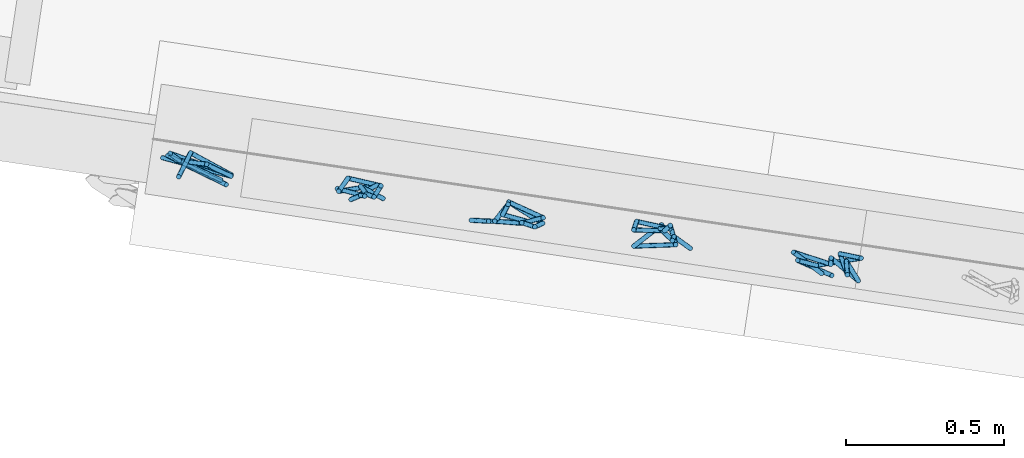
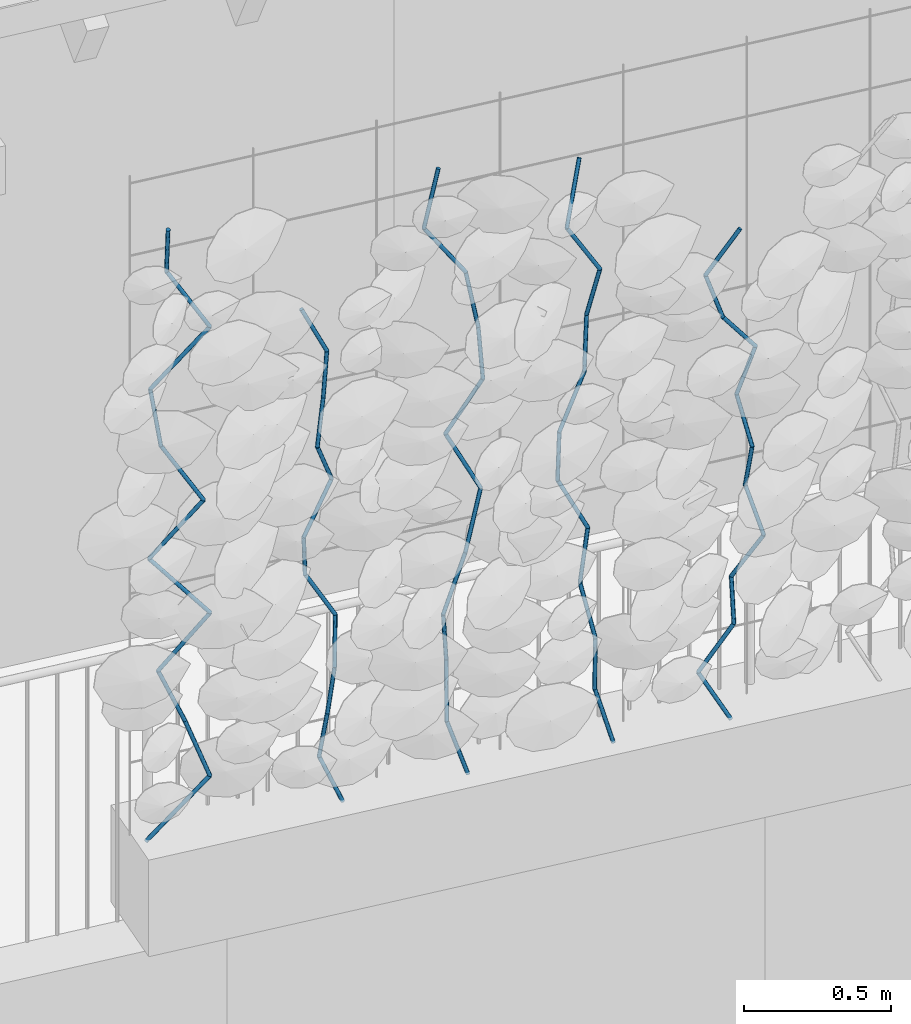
# One storey, part 103 of 128: 55 members, 1 element without a shape of its own.
"""IFC4 building model written with IfcOpenShell, lengths in metres."""

import ifcopenshell
import ifcopenshell.guid

model = None  # the IFC model being written
_history = None  # IfcOwnerHistory: only IFC2X3 demands one
_inside = {}  # id of a spatial element -> (the spatial element, [elements in it])
_under = {}  # id of a project, library or spatial element -> (it, [spatial elements below it])
_declared = {}  # id of a project -> (the project, [libraries it declares])
_typed = {}  # id of a type object -> (the type object, [elements of that type])
_made_of = {}  # id of a material, layer set ... -> (it, [elements and type objects made of it])


def new_model(schema):
    """Start an empty IFC model of exactly this schema.

    Asked for "IFC4X3", IfcOpenShell would pick the latest addendum, in which some entities
    have other attributes; the version numbers below select the first issue.
    IFC2X3 requires an IfcOwnerHistory on every rooted entity: one is made here for all.
    """
    global model, _history
    if schema == "IFC4X3":
        model = ifcopenshell.file(schema_version=(4, 3, 0, 0))
    else:
        model = ifcopenshell.file(schema=schema)
    _inside.clear()
    _under.clear()
    _declared.clear()
    _typed.clear()
    _made_of.clear()
    _history = None
    if model.schema == "IFC2X3":
        org = make("IfcOrganization", Name="unknown")
        user = make(
            "IfcPersonAndOrganization",
            ThePerson=make("IfcPerson", FamilyName="unknown"),
            TheOrganization=org,
        )
        app = make(
            "IfcApplication",
            ApplicationDeveloper=org,
            Version="unknown",
            ApplicationFullName="unknown",
            ApplicationIdentifier="unknown",
        )
        _history = make(
            "IfcOwnerHistory",
            OwningUser=user,
            OwningApplication=app,
            ChangeAction="ADDED",
            CreationDate=0,
        )
    return model


def make(cls, **values):
    """One entity of the class cls with the attributes given. An attribute that is None is left unset."""
    return model.create_entity(
        cls, **{name: value for name, value in values.items() if value is not None}
    )


def rooted(cls, **values):
    """An entity with a GlobalId (a new one), such as an element, a storey or a relation."""
    return make(cls, GlobalId=ifcopenshell.guid.new(), OwnerHistory=_history, **values)


def si_unit(unit_type, name, prefix=None):
    """IfcSIUnit, for example si_unit("LENGTHUNIT", "METRE", prefix="MILLI")."""
    return make("IfcSIUnit", UnitType=unit_type, Prefix=prefix, Name=name)


def assignment(units):
    """IfcUnitAssignment: the units of a project."""
    return None if units is None else make("IfcUnitAssignment", Units=units)


def point(xyz):
    """IfcCartesianPoint."""
    return None if xyz is None else make("IfcCartesianPoint", Coordinates=xyz)


def direction(xyz):
    """IfcDirection."""
    return None if xyz is None else make("IfcDirection", DirectionRatios=xyz)


def frame(location, z_axis=None, x_axis=None):
    """IfcAxis2Placement3D, a coordinate frame: its origin and axes. An axis left out is left unset."""
    return make(
        "IfcAxis2Placement3D",
        Location=point(location),
        Axis=direction(z_axis),
        RefDirection=direction(x_axis),
    )


def origin_with_axes():
    """The frame at (0, 0, 0) with the z axis (0, 0, 1) and the x axis (1, 0, 0) written out."""
    return frame((0.0, 0.0, 0.0), z_axis=(0.0, 0.0, 1.0), x_axis=(1.0, 0.0, 0.0))


def place(relative_to, where):
    """IfcLocalPlacement: puts the frame where relative to a parent placement (None: the world)."""
    return make(
        "IfcLocalPlacement", PlacementRelTo=relative_to, RelativePlacement=where
    )


def context(
    kind, dimensions, precision=None, world=None, true_north=None, identifier=None
):
    """IfcGeometricRepresentationContext, for example the 3D "Model" context."""
    return make(
        "IfcGeometricRepresentationContext",
        ContextIdentifier=identifier,
        ContextType=kind,
        CoordinateSpaceDimension=dimensions,
        Precision=precision,
        WorldCoordinateSystem=world,
        TrueNorth=true_north,
    )


def subcontext(parent, identifier, kind, view, scale=None):
    """IfcGeometricRepresentationSubContext, for example "Body" below "Model"."""
    return make(
        "IfcGeometricRepresentationSubContext",
        ContextIdentifier=identifier,
        ContextType=kind,
        ParentContext=parent,
        TargetScale=scale,
        TargetView=view,
    )


def project(units=None, contexts=None):
    """IfcProject with its units and contexts."""
    return rooted(
        "IfcProject",
        Name="project",
        RepresentationContexts=contexts,
        UnitsInContext=assignment(units),
    )


def spatial(cls, under=None, at=None, **own):
    """A site, building, storey or space (cls), placed at a placement, below another one or the project."""
    s = rooted(cls, ObjectPlacement=at, **own)
    if under is not None:
        _under.setdefault(under.id(), (under, []))[1].append(s)
    return s


def profile(cls, at=None, kind="AREA", **sizes):
    """A parametric profile (cls). Its sizes go by their IFC names, for example OverallWidth=200.0."""
    return make(cls, ProfileType=kind, Position=at, **sizes)


def circle(**sizes):
    """IfcCircleProfileDef."""
    return profile("IfcCircleProfileDef", **sizes)


def extrude(swept, where, along, depth):
    """IfcExtrudedAreaSolid: the profile swept, set in the frame where, extruded along a direction by depth."""
    return make(
        "IfcExtrudedAreaSolid",
        SweptArea=swept,
        Position=where,
        ExtrudedDirection=direction(along),
        Depth=depth,
    )


def shape(context_of_items, identifier, shape_type, items):
    """IfcShapeRepresentation: the items that make up one representation, for example the "Body"."""
    return make(
        "IfcShapeRepresentation",
        ContextOfItems=context_of_items,
        RepresentationIdentifier=identifier,
        RepresentationType=shape_type,
        Items=items,
    )


def material(Name=None, Category=None):
    """IfcMaterial."""
    return make("IfcMaterial", Name=Name, Category=Category)


def material_profile(
    of_material, cross_section, Name=None, Category=None, Priority=None
):
    """IfcMaterialProfile: a cross section and its material."""
    return make(
        "IfcMaterialProfile",
        Name=Name,
        Material=of_material,
        Profile=cross_section,
        Priority=Priority,
        Category=Category,
    )


def profile_set(profiles, Name=None, composite=None):
    """IfcMaterialProfileSet."""
    return make(
        "IfcMaterialProfileSet",
        Name=Name,
        MaterialProfiles=profiles,
        CompositeProfile=composite,
    )


def profile_usage(for_profile_set, cardinal=None, extent=None):
    """IfcMaterialProfileSetUsage: how a profile set lies along its element."""
    return make(
        "IfcMaterialProfileSetUsage",
        ForProfileSet=for_profile_set,
        CardinalPoint=cardinal,
        ReferenceExtent=extent,
    )


def made_of(thing, what):
    """Note that an element or type object is made of a material, layer set ...; save() writes the relation."""
    if what is not None:
        _made_of.setdefault(what.id(), (what, []))[1].append(thing)
    return thing


def type_object(cls, material=None, **own):
    """A type object (cls), such as IfcWallType, which elements share."""
    return made_of(rooted(cls, **own), material)


def element(
    cls,
    number,
    at=None,
    inside=None,
    cuts=None,
    type_object=None,
    material=None,
    context=None,
    identifier="Body",
    shape_type=None,
    held_by="IfcProductDefinitionShape",
    body=None,
    shapes=None,
    **own,
):
    """One element of the class cls, such as IfcWall. Its Tag is "e" and its number.

    at: its placement. inside: the storey or other place that contains it. cuts: it is an
    opening in that element (IfcRelVoidsElement). A single representation is given by context,
    identifier, shape_type and body (its items); several are given by shapes. held_by: the class
    of the entity that holds the representations. save() writes the other relations.
    """
    e = rooted(cls, Tag="e%d" % number, ObjectPlacement=at, **own)
    if body is not None:
        shapes = [shape(context, identifier, shape_type, body)]
    if shapes is not None:
        e.Representation = make(held_by, Representations=shapes)
    if inside is not None:
        _inside.setdefault(inside.id(), (inside, []))[1].append(e)
    if cuts is not None:
        rooted(
            "IfcRelVoidsElement", RelatingBuildingElement=cuts, RelatedOpeningElement=e
        )
    if type_object is not None:
        _typed.setdefault(type_object.id(), (type_object, []))[1].append(e)
    return made_of(e, material)


def aggregate(whole, parts):
    """IfcRelAggregates: a whole, such as a stair, and the parts it consists of."""
    return rooted("IfcRelAggregates", RelatingObject=whole, RelatedObjects=parts)


def save(model, path):
    """Write the relations noted so far, then the file.

    IfcRelAggregates (storeys below a building ...), IfcRelContainedInSpatialStructure (elements
    in a storey), IfcRelDefinesByType, IfcRelAssociatesMaterial and IfcRelDeclares: one each for
    every whole, place, type object, material and project.
    """
    for whole, parts in _under.values():
        aggregate(whole, parts)
    for where, things in _inside.values():
        rooted(
            "IfcRelContainedInSpatialStructure",
            RelatedElements=things,
            RelatingStructure=where,
        )
    for kind, things in _typed.values():
        rooted("IfcRelDefinesByType", RelatedObjects=things, RelatingType=kind)
    for what, things in _made_of.values():
        rooted("IfcRelAssociatesMaterial", RelatedObjects=things, RelatingMaterial=what)
    for by, libraries in _declared.values():
        rooted("IfcRelDeclares", RelatingContext=by, RelatedDefinitions=libraries)
    model.write(path)


model = new_model("IFC4")

# Units and contexts
model_context = context("Model", 3, precision=1e-05, world=origin_with_axes(), true_north=direction((0.0, 1.0)))
body_context = subcontext(model_context, "Body", "Model", "MODEL_VIEW")
ifc_project = project(units=[si_unit("VOLUMEUNIT", "CUBIC_METRE"), si_unit("LENGTHUNIT", "METRE"), si_unit("AREAUNIT", "SQUARE_METRE")], contexts=[model_context])

# Site, building, storey
site_placement = place(None, origin_with_axes())
site = spatial("IfcSite", under=ifc_project, at=site_placement, Name="Lares · Rua das Mercês · artigo 4771")
building_placement = place(site_placement, frame((15.0, 9.7, 13.9), z_axis=(0.0, 0.0, 1.0), x_axis=(0.989015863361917, -0.147809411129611, 0.0)))
building = spatial("IfcBuilding", under=site, at=building_placement, Name="Casa Sobreposta")
storey_placement = place(building_placement, origin_with_axes())
storey = spatial("IfcBuildingStorey", under=building, at=storey_placement, Name="00 · Habitação e estacionamento", Elevation=13.9)

# Assembly, members
assembly_placement = place(storey_placement, origin_with_axes())
assembly = element("IfcElementAssembly", 1, at=assembly_placement, inside=storey, Name="Fachada sul e pátio · estrutura e trepadeiras", ObjectType="LIVING_SHADE_TRELLIS", PredefinedType="USERDEFINED")
ifc_material = material(Name="Ramos de trepadeiras", Category="wood")
ifc_material_profile = material_profile(ifc_material, circle(Radius=0.0075))
ifc_profile_set = profile_set([ifc_material_profile], Name="D0.015")
ifc_profile_usage_1 = profile_usage(ifc_profile_set)
member_type = type_object("IfcMemberType", Name="D0.015 / vine_wood", PredefinedType="NOTDEFINED", material=ifc_profile_set)
member_1_placement = place(assembly_placement, frame((0.487502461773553, -1.66396382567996, 0.35), z_axis=(0.69058492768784, -0.0801863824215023, 0.718792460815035), x_axis=(-0.115338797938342, -0.993326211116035, 0.0)))
member_1 = element("IfcMember", 2, at=member_1_placement, type_object=member_type, material=ifc_profile_usage_1, Name="Trepadeiras · ramo", context=body_context, shape_type="SweptSolid", body=[
    extrude(circle(Radius=0.0075), origin_with_axes(), (0.0, 0.0, 1.0), 0.32293185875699),
])
ifc_profile_usage_2 = profile_usage(ifc_profile_set)
member_2_placement = place(assembly_placement, frame((0.710514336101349, -1.68985856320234, 0.582120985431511), z_axis=(-0.328747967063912, 0.104310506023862, 0.938639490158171), x_axis=(0.30243708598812, 0.953169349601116, 0.0)))
member_2 = element("IfcMember", 3, at=member_2_placement, type_object=member_type, material=ifc_profile_usage_2, Name="Trepadeiras · ramo", context=body_context, shape_type="SweptSolid", body=[
    extrude(circle(Radius=0.0075), origin_with_axes(), (0.0, 0.0, 1.0), 0.247295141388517),
])
ifc_profile_usage_3 = profile_usage(ifc_profile_set)
member_3_placement = place(assembly_placement, frame((0.629216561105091, -1.66406308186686, 0.814241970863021), z_axis=(-0.389191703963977, -0.00603293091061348, 0.921137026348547), x_axis=(-0.0154993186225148, 0.999879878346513, 0.0)))
member_3 = element("IfcMember", 4, at=member_3_placement, type_object=member_type, material=ifc_profile_usage_3, Name="Trepadeiras · ramo", context=body_context, shape_type="SweptSolid", body=[
    extrude(circle(Radius=0.0075), origin_with_axes(), (0.0, 0.0, 1.0), 0.251993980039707),
])
ifc_profile_usage_4 = profile_usage(ifc_profile_set)
member_4_placement = place(assembly_placement, frame((0.531142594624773, -1.66558334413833, 1.04636295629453), z_axis=(0.579293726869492, -0.182032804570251, 0.794533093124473), x_axis=(-0.299780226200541, -0.954008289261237, 0.0)))
member_4 = element("IfcMember", 5, at=member_4_placement, type_object=member_type, material=ifc_profile_usage_4, Name="Trepadeiras · ramo", context=body_context, shape_type="SweptSolid", body=[
    extrude(circle(Radius=0.0075), origin_with_axes(), (0.0, 0.0, 1.0), 0.292147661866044),
])
ifc_profile_usage_5 = profile_usage(ifc_profile_set)
member_5_placement = place(assembly_placement, frame((0.700381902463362, -1.71876380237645, 1.27848394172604), z_axis=(-0.634729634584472, 0.207136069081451, 0.744454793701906), x_axis=(0.310235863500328, 0.950659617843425, 3.09474478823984e-17)))
member_5 = element("IfcMember", 6, at=member_5_placement, type_object=member_type, material=ifc_profile_usage_5, Name="Trepadeiras · ramo", context=body_context, shape_type="SweptSolid", body=[
    extrude(circle(Radius=0.0075), origin_with_axes(), (0.0, 0.0, 1.0), 0.311799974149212),
])
ifc_profile_usage_6 = profile_usage(ifc_profile_set)
member_6_placement = place(assembly_placement, frame((0.502473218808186, -1.65417878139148, 1.51060492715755), z_axis=(0.599844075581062, -0.17685079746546, 0.78032741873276), x_axis=(-0.28279332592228, -0.959180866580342, 0.0)))
member_6 = element("IfcMember", 7, at=member_6_placement, type_object=member_type, material=ifc_profile_usage_6, Name="Trepadeiras · ramo", context=body_context, shape_type="SweptSolid", body=[
    extrude(circle(Radius=0.0075), origin_with_axes(), (0.0, 0.0, 1.0), 0.297466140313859),
])
ifc_profile_usage_7 = profile_usage(ifc_profile_set)
member_7_placement = place(assembly_placement, frame((0.680906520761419, -1.70678590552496, 1.74272591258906), z_axis=(-0.507589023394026, 0.156348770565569, 0.847294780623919), x_axis=(0.294373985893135, 0.95569030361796, 0.0)))
member_7 = element("IfcMember", 8, at=member_7_placement, type_object=member_type, material=ifc_profile_usage_7, Name="Trepadeiras · ramo", context=body_context, shape_type="SweptSolid", body=[
    extrude(circle(Radius=0.0075), origin_with_axes(), (0.0, 0.0, 1.0), 0.27395540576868),
])
ifc_profile_usage_8 = profile_usage(ifc_profile_set)
member_8_placement = place(assembly_placement, frame((0.54184976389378, -1.66395331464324, 1.97484689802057), z_axis=(-0.136484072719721, 0.0718011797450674, 0.988036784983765), x_axis=(0.465581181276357, 0.885005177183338, 0.0)))
member_8 = element("IfcMember", 9, at=member_8_placement, type_object=member_type, material=ifc_profile_usage_8, Name="Trepadeiras · ramo", context=body_context, shape_type="SweptSolid", body=[
    extrude(circle(Radius=0.0075), origin_with_axes(), (0.0, 0.0, 1.0), 0.23493152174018),
])
ifc_profile_usage_9 = profile_usage(ifc_profile_set)
member_9_placement = place(assembly_placement, frame((0.509785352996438, -1.64708495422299, 2.20696788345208), z_axis=(0.65162920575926, -0.125884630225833, 0.74801900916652), x_axis=(-0.189677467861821, -0.981846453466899, 0.0)))
member_9 = element("IfcMember", 10, at=member_9_placement, type_object=member_type, material=ifc_profile_usage_9, Name="Trepadeiras · ramo", context=body_context, shape_type="SweptSolid", body=[
    extrude(circle(Radius=0.0075), origin_with_axes(), (0.0, 0.0, 1.0), 0.310314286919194),
])
ifc_profile_usage_10 = profile_usage(ifc_profile_set)
member_10_placement = place(assembly_placement, frame((0.711995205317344, -1.6861487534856, 2.4390888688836), z_axis=(-0.503862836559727, 0.183056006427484, 0.844163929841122), x_axis=(0.341468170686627, 0.93989333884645, 0.0)))
member_10 = element("IfcMember", 11, at=member_10_placement, type_object=member_type, material=ifc_profile_usage_10, Name="Trepadeiras · ramo", context=body_context, shape_type="SweptSolid", body=[
    extrude(circle(Radius=0.0075), origin_with_axes(), (0.0, 0.0, 1.0), 0.274971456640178),
])
ifc_profile_usage_11 = profile_usage(ifc_profile_set)
member_11_placement = place(assembly_placement, frame((0.573447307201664, -1.6358135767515, 2.67120985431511), z_axis=(-0.104470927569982, -0.32645838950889, 0.939420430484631), x_axis=(-0.952420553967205, 0.304786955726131, 0.0)))
member_11 = element("IfcMember", 12, at=member_11_placement, type_object=member_type, material=ifc_profile_usage_11, Name="Trepadeiras · ramo", context=body_context, shape_type="SweptSolid", body=[
    extrude(circle(Radius=0.0075), origin_with_axes(), (0.0, 0.0, 1.0), 0.247089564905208),
])
ifc_profile_usage_12 = profile_usage(ifc_profile_set)
member_12_placement = place(assembly_placement, frame((1.19577776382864, -1.68878370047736, 0.35), z_axis=(-0.370010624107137, 0.134204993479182, 0.919282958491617), x_axis=(0.340970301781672, 0.940074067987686, 0.0)))
member_12 = element("IfcMember", 13, at=member_12_placement, type_object=member_type, material=ifc_profile_usage_12, Name="Trepadeiras · ramo", context=body_context, shape_type="SweptSolid", body=[
    extrude(circle(Radius=0.0075), origin_with_axes(), (0.0, 0.0, 1.0), 0.204791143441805),
])
ifc_profile_usage_13 = profile_usage(ifc_profile_set)
member_13_placement = place(assembly_placement, frame((1.12000286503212, -1.66129970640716, 0.538261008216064), z_axis=(0.114974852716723, -0.113400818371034, 0.98687437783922), x_axis=(-0.702216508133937, -0.71196346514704, 0.0)))
member_13 = element("IfcMember", 14, at=member_13_placement, type_object=member_type, material=ifc_profile_usage_13, Name="Trepadeiras · ramo", context=body_context, shape_type="SweptSolid", body=[
    extrude(circle(Radius=0.0075), origin_with_axes(), (0.0, 0.0, 1.0), 0.190764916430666),
])
ifc_profile_usage_14 = profile_usage(ifc_profile_set)
member_14_placement = place(assembly_placement, frame((1.14193603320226, -1.68293260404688, 0.726522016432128), z_axis=(0.129485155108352, -0.0261637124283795, 0.991236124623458), x_axis=(-0.198056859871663, -0.98019053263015, 0.0)))
member_14 = element("IfcMember", 15, at=member_14_placement, type_object=member_type, material=ifc_profile_usage_14, Name="Trepadeiras · ramo", context=body_context, shape_type="SweptSolid", body=[
    extrude(circle(Radius=0.0075), origin_with_axes(), (0.0, 0.0, 1.0), 0.189925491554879),
])
ifc_profile_usage_15 = profile_usage(ifc_profile_set)
member_15_placement = place(assembly_placement, frame((1.16652856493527, -1.68790175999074, 0.914783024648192), z_axis=(0.0860637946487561, 0.196311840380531, 0.976757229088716), x_axis=(0.915853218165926, -0.401513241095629, 0.0)))
member_15 = element("IfcMember", 16, at=member_15_placement, type_object=member_type, material=ifc_profile_usage_15, Name="Trepadeiras · ramo", context=body_context, shape_type="SweptSolid", body=[
    extrude(circle(Radius=0.0075), origin_with_axes(), (0.0, 0.0, 1.0), 0.192740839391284),
])
ifc_profile_usage_16 = profile_usage(ifc_profile_set)
member_16_placement = place(assembly_placement, frame((1.18311657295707, -1.65006445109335, 1.10304403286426), z_axis=(-0.492196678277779, 0.0389354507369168, 0.86961282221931), x_axis=(0.07885911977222, 0.996885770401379, 0.0)))
member_16 = element("IfcMember", 17, at=member_16_placement, type_object=member_type, material=ifc_profile_usage_16, Name="Trepadeiras · ramo", context=body_context, shape_type="SweptSolid", body=[
    extrude(circle(Radius=0.0075), origin_with_axes(), (0.0, 0.0, 1.0), 0.216488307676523),
])
ifc_profile_usage_17 = profile_usage(ifc_profile_set)
member_17_placement = place(assembly_placement, frame((1.07656174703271, -1.64163538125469, 1.29130504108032), z_axis=(-0.115924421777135, -0.23083538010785, 0.966062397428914), x_axis=(-0.893641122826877, 0.448782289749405, 0.0)))
member_17 = element("IfcMember", 18, at=member_17_placement, type_object=member_type, material=ifc_profile_usage_17, Name="Trepadeiras · ramo", context=body_context, shape_type="SweptSolid", body=[
    extrude(circle(Radius=0.0075), origin_with_axes(), (0.0, 0.0, 1.0), 0.194874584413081),
])
ifc_profile_usage_18 = profile_usage(ifc_profile_set)
member_18_placement = place(assembly_placement, frame((1.05397102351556, -1.68661933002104, 1.47956604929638), z_axis=(0.518346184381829, 0.165755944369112, 0.838953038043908), x_axis=(0.304584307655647, -0.952485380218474, 0.0)))
member_18 = element("IfcMember", 19, at=member_18_placement, type_object=member_type, material=ifc_profile_usage_18, Name="Trepadeiras · ramo", context=body_context, shape_type="SweptSolid", body=[
    extrude(circle(Radius=0.0075), origin_with_axes(), (0.0, 0.0, 1.0), 0.224399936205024),
])
ifc_profile_usage_19 = profile_usage(ifc_profile_set)
member_19_placement = place(assembly_placement, frame((1.17028787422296, -1.64942370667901, 1.66782705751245), z_axis=(-0.353351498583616, -0.271395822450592, 0.895258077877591), x_axis=(-0.609128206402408, 0.793071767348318, 0.0)))
member_19 = element("IfcMember", 20, at=member_19_placement, type_object=member_type, material=ifc_profile_usage_19, Name="Trepadeiras · ramo", context=body_context, shape_type="SweptSolid", body=[
    extrude(circle(Radius=0.0075), origin_with_axes(), (0.0, 0.0, 1.0), 0.210286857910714),
])
ifc_profile_usage_20 = profile_usage(ifc_profile_set)
member_20_placement = place(assembly_placement, frame((1.09598269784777, -1.70649468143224, 1.85608806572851), z_axis=(0.148789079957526, 0.088983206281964, 0.984857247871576), x_axis=(0.513264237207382, -0.858230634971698, 0.0)))
member_20 = element("IfcMember", 21, at=member_20_placement, type_object=member_type, material=ifc_profile_usage_20, Name="Trepadeiras · ramo", context=body_context, shape_type="SweptSolid", body=[
    extrude(circle(Radius=0.0075), origin_with_axes(), (0.0, 0.0, 1.0), 0.191155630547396),
])
ifc_profile_usage_21 = profile_usage(ifc_profile_set)
member_21_placement = place(assembly_placement, frame((1.12442456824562, -1.68948504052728, 2.04434907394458), z_axis=(0.0685665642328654, -0.00028264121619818, 0.99764650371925), x_axis=(-0.00412210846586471, -0.999991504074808, 0.0)))
member_21 = element("IfcMember", 22, at=member_21_placement, type_object=member_type, material=ifc_profile_usage_21, Name="Trepadeiras · ramo", context=body_context, shape_type="SweptSolid", body=[
    extrude(circle(Radius=0.0075), origin_with_axes(), (0.0, 0.0, 1.0), 0.188705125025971),
])
ifc_profile_usage_22 = profile_usage(ifc_profile_set)
member_22_placement = place(assembly_placement, frame((1.13736343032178, -1.68953837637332, 2.23261008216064), z_axis=(-0.427784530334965, 0.0507941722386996, 0.902452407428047), x_axis=(0.117909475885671, 0.993024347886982, 0.0)))
member_22 = element("IfcMember", 23, at=member_22_placement, type_object=member_type, material=ifc_profile_usage_22, Name="Trepadeiras · ramo", context=body_context, shape_type="SweptSolid", body=[
    extrude(circle(Radius=0.0075), origin_with_axes(), (0.0, 0.0, 1.0), 0.208610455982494),
])
ifc_profile_usage_23 = profile_usage(ifc_profile_set)
member_23_placement = place(assembly_placement, frame((1.65069620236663, -1.69213332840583, 0.35), z_axis=(-0.302355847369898, 0.0374710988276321, 0.952458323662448), x_axis=(0.122989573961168, 0.992407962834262, 0.0)))
member_23 = element("IfcMember", 24, at=member_23_placement, type_object=member_type, material=ifc_profile_usage_23, Name="Trepadeiras · ramo", context=body_context, shape_type="SweptSolid", body=[
    extrude(circle(Radius=0.0075), origin_with_axes(), (0.0, 0.0, 1.0), 0.243378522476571),
])
ifc_profile_usage_24 = profile_usage(ifc_profile_set)
member_24_placement = place(assembly_placement, frame((1.57710928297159, -1.68301366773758, 0.581807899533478), z_axis=(0.0489488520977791, 0.146411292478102, 0.988012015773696), x_axis=(0.948400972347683, -0.317073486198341, 0.0)))
member_24 = element("IfcMember", 25, at=member_24_placement, type_object=member_type, material=ifc_profile_usage_24, Name="Trepadeiras · ramo", context=body_context, shape_type="SweptSolid", body=[
    extrude(circle(Radius=0.0075), origin_with_axes(), (0.0, 0.0, 1.0), 0.234620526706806),
])
ifc_profile_usage_25 = profile_usage(ifc_profile_set)
member_25_placement = place(assembly_placement, frame((1.58859368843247, -1.64866257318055, 0.813615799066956), z_axis=(-0.139443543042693, -0.242815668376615, 0.959997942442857), x_axis=(-0.867176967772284, 0.498000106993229, 0.0)))
member_25 = element("IfcMember", 26, at=member_25_placement, type_object=member_type, material=ifc_profile_usage_25, Name="Trepadeiras · ramo", context=body_context, shape_type="SweptSolid", body=[
    extrude(circle(Radius=0.0075), origin_with_axes(), (0.0, 0.0, 1.0), 0.2414670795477),
])
ifc_profile_usage_26 = profile_usage(ifc_profile_set)
member_26_placement = place(assembly_placement, frame((1.55492266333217, -1.70729456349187, 1.04542369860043), z_axis=(0.336633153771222, 0.0229710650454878, 0.941355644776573), x_axis=(0.0680793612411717, -0.997679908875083, 0.0)))
member_26 = element("IfcMember", 27, at=member_26_placement, type_object=member_type, material=ifc_profile_usage_26, Name="Trepadeiras · ramo", context=body_context, shape_type="SweptSolid", body=[
    extrude(circle(Radius=0.0075), origin_with_axes(), (0.0, 0.0, 1.0), 0.24624901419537),
])
ifc_profile_usage_27 = profile_usage(ifc_profile_set)
member_27_placement = place(assembly_placement, frame((1.63781824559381, -1.7016379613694, 1.27723159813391), z_axis=(0.274649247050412, 0.113486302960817, 0.954823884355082), x_axis=(0.381887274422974, -0.924208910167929, -1.11474430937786e-17)))
member_27 = element("IfcMember", 28, at=member_27_placement, type_object=member_type, material=ifc_profile_usage_27, Name="Trepadeiras · ramo", context=body_context, shape_type="SweptSolid", body=[
    extrude(circle(Radius=0.0075), origin_with_axes(), (0.0, 0.0, 1.0), 0.242775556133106),
])
ifc_profile_usage_28 = profile_usage(ifc_profile_set)
member_28_placement = place(assembly_placement, frame((1.70449636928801, -1.6740862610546, 1.50903949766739), z_axis=(-0.442828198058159, 0.127544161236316, 0.887488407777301), x_axis=(0.27677050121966, 0.960936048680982, -1.33632518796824e-17)))
member_28 = element("IfcMember", 29, at=member_28_placement, type_object=member_type, material=ifc_profile_usage_28, Name="Trepadeiras · ramo", context=body_context, shape_type="SweptSolid", body=[
    extrude(circle(Radius=0.0075), origin_with_axes(), (0.0, 0.0, 1.0), 0.261195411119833),
])
ifc_profile_usage_29 = profile_usage(ifc_profile_set)
member_29_placement = place(assembly_placement, frame((1.58883167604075, -1.64077231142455, 1.74084739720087), z_axis=(0.441156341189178, -0.192631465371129, 0.876512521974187), x_axis=(-0.400165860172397, -0.916442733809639, 0.0)))
member_29 = element("IfcMember", 30, at=member_29_placement, type_object=member_type, material=ifc_profile_usage_29, Name="Trepadeiras · ramo", context=body_context, shape_type="SweptSolid", body=[
    extrude(circle(Radius=0.0075), origin_with_axes(), (0.0, 0.0, 1.0), 0.264466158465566),
])
ifc_profile_usage_30 = profile_usage(ifc_profile_set)
member_30_placement = place(assembly_placement, frame((1.70550259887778, -1.69171681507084, 1.97265529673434), z_axis=(-0.0976262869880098, -0.062175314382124, 0.993279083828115), x_axis=(-0.537179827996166, 0.843467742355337, 0.0)))
member_30 = element("IfcMember", 31, at=member_30_placement, type_object=member_type, material=ifc_profile_usage_30, Name="Trepadeiras · ramo", context=body_context, shape_type="SweptSolid", body=[
    extrude(circle(Radius=0.0075), origin_with_axes(), (0.0, 0.0, 1.0), 0.233376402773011),
])
ifc_profile_usage_31 = profile_usage(ifc_profile_set)
member_31_placement = place(assembly_placement, frame((1.68271892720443, -1.70622706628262, 2.20446319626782), z_axis=(-0.182010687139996, 0.0299207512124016, 0.982841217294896), x_axis=(0.162212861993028, 0.986755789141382, 0.0)))
member_31 = element("IfcMember", 32, at=member_31_placement, type_object=member_type, material=ifc_profile_usage_31, Name="Trepadeiras · ramo", context=body_context, shape_type="SweptSolid", body=[
    extrude(circle(Radius=0.0075), origin_with_axes(), (0.0, 0.0, 1.0), 0.235854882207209),
])
ifc_profile_usage_32 = profile_usage(ifc_profile_set)
member_32_placement = place(assembly_placement, frame((1.63979081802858, -1.69917011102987, 2.4362710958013), z_axis=(-0.563762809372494, -0.0571675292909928, 0.823955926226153), x_axis=(-0.100886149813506, 0.994897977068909, -1.00896558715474e-17)))
member_32 = element("IfcMember", 33, at=member_32_placement, type_object=member_type, material=ifc_profile_usage_32, Name="Trepadeiras · ramo", context=body_context, shape_type="SweptSolid", body=[
    extrude(circle(Radius=0.0075), origin_with_axes(), (0.0, 0.0, 1.0), 0.281335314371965),
])
ifc_profile_usage_33 = profile_usage(ifc_profile_set)
member_33_placement = place(assembly_placement, frame((1.48118443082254, -1.71525335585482, 2.66807899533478), z_axis=(0.22862328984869, 0.0196119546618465, 0.973317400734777), x_axis=(0.0854689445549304, -0.996340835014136, 0.0)))
member_33 = element("IfcMember", 34, at=member_33_placement, type_object=member_type, material=ifc_profile_usage_33, Name="Trepadeiras · ramo", context=body_context, shape_type="SweptSolid", body=[
    extrude(circle(Radius=0.0075), origin_with_axes(), (0.0, 0.0, 1.0), 0.238162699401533),
])
ifc_profile_usage_34 = profile_usage(ifc_profile_set)
member_34_placement = place(assembly_placement, frame((2.17778990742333, -1.70092541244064, 0.35), z_axis=(-0.246947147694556, 0.127641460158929, 0.960585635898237), x_axis=(0.459167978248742, 0.888349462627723, 0.0)))
member_34 = element("IfcMember", 35, at=member_34_placement, type_object=member_type, material=ifc_profile_usage_34, Name="Trepadeiras · ramo", context=body_context, shape_type="SweptSolid", body=[
    extrude(circle(Radius=0.0075), origin_with_axes(), (0.0, 0.0, 1.0), 0.22794704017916),
])
ifc_profile_usage_35 = profile_usage(ifc_profile_set)
member_35_placement = place(assembly_placement, frame((2.12149903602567, -1.67182991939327, 0.568962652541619), z_axis=(-0.0140771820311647, -0.0591782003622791, 0.998148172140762), x_axis=(-0.972853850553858, 0.231420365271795, 0.0)))
member_35 = element("IfcMember", 36, at=member_35_placement, type_object=member_type, material=ifc_profile_usage_35, Name="Trepadeiras · ramo", context=body_context, shape_type="SweptSolid", body=[
    extrude(circle(Radius=0.0075), origin_with_axes(), (0.0, 0.0, 1.0), 0.219368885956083),
])
ifc_profile_usage_36 = profile_usage(ifc_profile_set)
member_36_placement = place(assembly_placement, frame((2.11841094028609, -1.68481177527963, 0.787925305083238), z_axis=(-0.193001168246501, 0.140922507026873, 0.971025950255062), x_axis=(0.589697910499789, 0.807623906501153, 0.0)))
member_36 = element("IfcMember", 37, at=member_36_placement, type_object=member_type, material=ifc_profile_usage_36, Name="Trepadeiras · ramo", context=body_context, shape_type="SweptSolid", body=[
    extrude(circle(Radius=0.0075), origin_with_axes(), (0.0, 0.0, 1.0), 0.225496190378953),
])
ifc_profile_usage_37 = profile_usage(ifc_profile_set)
member_37_placement = place(assembly_placement, frame((2.07488991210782, -1.65303428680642, 1.00688795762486), z_axis=(0.136031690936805, 0.0168165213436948, 0.990561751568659), x_axis=(0.122688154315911, -0.99244527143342, 0.0)))
member_37 = element("IfcMember", 38, at=member_37_placement, type_object=member_type, material=ifc_profile_usage_37, Name="Trepadeiras · ramo", context=body_context, shape_type="SweptSolid", body=[
    extrude(circle(Radius=0.0075), origin_with_axes(), (0.0, 0.0, 1.0), 0.221048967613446),
])
ifc_profile_usage_38 = profile_usage(ifc_profile_set)
member_38_placement = place(assembly_placement, frame((2.10495957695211, -1.64931701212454, 1.22585061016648), z_axis=(-0.43984831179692, 0.0300602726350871, 0.897568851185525), x_axis=(0.0681833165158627, 0.997672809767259, 0.0)))
member_38 = element("IfcMember", 39, at=member_38_placement, type_object=member_type, material=ifc_profile_usage_38, Name="Trepadeiras · ramo", context=body_context, shape_type="SweptSolid", body=[
    extrude(circle(Radius=0.0075), origin_with_axes(), (0.0, 0.0, 1.0), 0.243950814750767),
])
ifc_profile_usage_39 = profile_usage(ifc_profile_set)
member_39_placement = place(assembly_placement, frame((1.9976582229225, -1.64198378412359, 1.4448132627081), z_axis=(-0.0213600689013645, -0.125262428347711, 0.991893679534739), x_axis=(-0.985770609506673, 0.168096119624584, 0.0)))
member_39 = element("IfcMember", 40, at=member_39_placement, type_object=member_type, material=ifc_profile_usage_39, Name="Trepadeiras · ramo", context=body_context, shape_type="SweptSolid", body=[
    extrude(circle(Radius=0.0075), origin_with_axes(), (0.0, 0.0, 1.0), 0.220752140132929),
])
ifc_profile_usage_40 = profile_usage(ifc_profile_set)
member_40_placement = place(assembly_placement, frame((1.99294294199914, -1.66963573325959, 1.66377591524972), z_axis=(0.401780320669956, 0.0493789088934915, 0.914403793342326), x_axis=(0.121982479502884, -0.992532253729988, 0.0)))
member_40 = element("IfcMember", 41, at=member_40_placement, type_object=member_type, material=ifc_profile_usage_40, Name="Trepadeiras · ramo", context=body_context, shape_type="SweptSolid", body=[
    extrude(circle(Radius=0.0075), origin_with_axes(), (0.0, 0.0, 1.0), 0.239459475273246),
])
ifc_profile_usage_41 = profile_usage(ifc_profile_set)
member_41_placement = place(assembly_placement, frame((2.08915304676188, -1.65781148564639, 1.88273856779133), z_axis=(0.0701700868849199, 0.0863193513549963, 0.993793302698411), x_axis=(0.77595729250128, -0.630785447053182, 0.0)))
member_41 = element("IfcMember", 42, at=member_41_placement, type_object=member_type, material=ifc_profile_usage_41, Name="Trepadeiras · ramo", context=body_context, shape_type="SweptSolid", body=[
    extrude(circle(Radius=0.0075), origin_with_axes(), (0.0, 0.0, 1.0), 0.220330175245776),
])
ifc_profile_usage_42 = profile_usage(ifc_profile_set)
member_42_placement = place(assembly_placement, frame((2.10461363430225, -1.63879272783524, 2.10170122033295), z_axis=(0.114782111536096, -0.252020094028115, 0.960890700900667), x_axis=(-0.910056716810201, -0.414483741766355, 0.0)))
member_42 = element("IfcMember", 43, at=member_42_placement, type_object=member_type, material=ifc_profile_usage_42, Name="Trepadeiras · ramo", context=body_context, shape_type="SweptSolid", body=[
    extrude(circle(Radius=0.0075), origin_with_axes(), (0.0, 0.0, 1.0), 0.227874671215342),
])
ifc_profile_usage_43 = profile_usage(ifc_profile_set)
member_43_placement = place(assembly_placement, frame((2.13076957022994, -1.69622172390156, 2.32066387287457), z_axis=(-0.509242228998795, -0.0945821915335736, 0.855410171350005), x_axis=(-0.182608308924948, 0.98318574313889, -1.14597678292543e-17)))
member_43 = element("IfcMember", 44, at=member_43_placement, type_object=member_type, material=ifc_profile_usage_43, Name="Trepadeiras · ramo", context=body_context, shape_type="SweptSolid", body=[
    extrude(circle(Radius=0.0075), origin_with_axes(), (0.0, 0.0, 1.0), 0.255973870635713),
])
ifc_profile_usage_44 = profile_usage(ifc_profile_set)
member_44_placement = place(assembly_placement, frame((2.00041686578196, -1.72043229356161, 2.53962652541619), z_axis=(0.313740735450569, 0.3266213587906, 0.89156336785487), x_axis=(0.721184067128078, -0.692743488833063, 0.0)))
member_44 = element("IfcMember", 45, at=member_44_placement, type_object=member_type, material=ifc_profile_usage_44, Name="Trepadeiras · ramo", context=body_context, shape_type="SweptSolid", body=[
    extrude(circle(Radius=0.0075), origin_with_axes(), (0.0, 0.0, 1.0), 0.245594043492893),
])
ifc_profile_usage_45 = profile_usage(ifc_profile_set)
member_45_placement = place(assembly_placement, frame((2.59969783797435, -1.71802459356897, 0.35), z_axis=(-0.456897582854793, 0.248231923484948, 0.854181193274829), x_axis=(0.477391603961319, 0.878690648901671, 0.0)))
member_45 = element("IfcMember", 46, at=member_45_placement, type_object=member_type, material=ifc_profile_usage_45, Name="Trepadeiras · ramo", context=body_context, shape_type="SweptSolid", body=[
    extrude(circle(Radius=0.0075), origin_with_axes(), (0.0, 0.0, 1.0), 0.21542535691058),
])
ifc_profile_usage_46 = profile_usage(ifc_profile_set)
member_46_placement = place(assembly_placement, frame((2.50127051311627, -1.66454914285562, 0.534012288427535), z_axis=(0.55135418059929, -0.0926420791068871, 0.829111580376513), x_axis=(-0.165703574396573, -0.986175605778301, 1.02902709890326e-17)))
member_46 = element("IfcMember", 47, at=member_46_placement, type_object=member_type, material=ifc_profile_usage_46, Name="Trepadeiras · ramo", context=body_context, shape_type="SweptSolid", body=[
    extrude(circle(Radius=0.0075), origin_with_axes(), (0.0, 0.0, 1.0), 0.221939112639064),
])
ifc_profile_usage_47 = profile_usage(ifc_profile_set)
member_47_placement = place(assembly_placement, frame((2.62363757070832, -1.68511004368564, 0.71802457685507), z_axis=(-0.00935614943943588, 0.106766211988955, 0.994240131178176), x_axis=(0.996182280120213, 0.0872975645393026, 0.0)))
member_47 = element("IfcMember", 48, at=member_47_placement, type_object=member_type, material=ifc_profile_usage_47, Name="Trepadeiras · ramo", context=body_context, shape_type="SweptSolid", body=[
    extrude(circle(Radius=0.0075), origin_with_axes(), (0.0, 0.0, 1.0), 0.185078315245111),
])
ifc_profile_usage_48 = profile_usage(ifc_profile_set)
member_48_placement = place(assembly_placement, frame((2.62190595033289, -1.66534993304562, 0.902036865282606), z_axis=(0.443819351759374, -0.271276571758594, 0.854068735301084), x_axis=(-0.521525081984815, -0.853235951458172, -2.27864137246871e-17)))
member_48 = element("IfcMember", 49, at=member_48_placement, type_object=member_type, material=ifc_profile_usage_48, Name="Trepadeiras · ramo", context=body_context, shape_type="SweptSolid", body=[
    extrude(circle(Radius=0.0075), origin_with_axes(), (0.0, 0.0, 1.0), 0.215453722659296),
])
ifc_profile_usage_49 = profile_usage(ifc_profile_set)
member_49_placement = place(assembly_placement, frame((2.71752848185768, -1.72379748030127, 1.08604915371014), z_axis=(-0.234019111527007, 0.276985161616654, 0.931941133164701), x_axis=(0.763866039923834, 0.645374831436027, 0.0)))
member_49 = element("IfcMember", 50, at=member_49_placement, type_object=member_type, material=ifc_profile_usage_49, Name="Trepadeiras · ramo", context=body_context, shape_type="SweptSolid", body=[
    extrude(circle(Radius=0.0075), origin_with_axes(), (0.0, 0.0, 1.0), 0.197450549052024),
])
ifc_profile_usage_50 = profile_usage(ifc_profile_set)
member_50_placement = place(assembly_placement, frame((2.671321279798, -1.66910660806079, 1.27006144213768), z_axis=(0.0486760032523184, -0.218400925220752, 0.974644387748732), x_axis=(-0.976052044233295, -0.217537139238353, 0.0)))
member_50 = element("IfcMember", 51, at=member_50_placement, type_object=member_type, material=ifc_profile_usage_50, Name="Trepadeiras · ramo", context=body_context, shape_type="SweptSolid", body=[
    extrude(circle(Radius=0.0075), origin_with_axes(), (0.0, 0.0, 1.0), 0.18879941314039),
])
ifc_profile_usage_51 = profile_usage(ifc_profile_set)
member_51_placement = place(assembly_placement, frame((2.68051128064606, -1.71034057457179, 1.45407373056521), z_axis=(-0.1644514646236, 0.316888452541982, 0.934097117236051), x_axis=(0.887595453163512, 0.460623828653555, 0.0)))
member_51 = element("IfcMember", 52, at=member_51_placement, type_object=member_type, material=ifc_profile_usage_51, Name="Trepadeiras · ramo", context=body_context, shape_type="SweptSolid", body=[
    extrude(circle(Radius=0.0075), origin_with_axes(), (0.0, 0.0, 1.0), 0.19699481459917),
])
ifc_profile_usage_52 = profile_usage(ifc_profile_set)
member_52_placement = place(assembly_placement, frame((2.64811519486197, -1.64791519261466, 1.63808601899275), z_axis=(0.34534465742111, -0.0192792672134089, 0.938277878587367), x_axis=(-0.0557393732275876, -0.998445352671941, 0.0)))
member_52 = element("IfcMember", 53, at=member_52_placement, type_object=member_type, material=ifc_profile_usage_52, Name="Trepadeiras · ramo", context=body_context, shape_type="SweptSolid", body=[
    extrude(circle(Radius=0.0075), origin_with_axes(), (0.0, 0.0, 1.0), 0.1961170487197),
])
ifc_profile_usage_53 = profile_usage(ifc_profile_set)
member_53_placement = place(assembly_placement, frame((2.71584316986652, -1.65169618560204, 1.82209830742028), z_axis=(-0.585863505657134, -0.185742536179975, 0.788836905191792), x_axis=(-0.30221567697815, 0.953239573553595, 0.0)))
member_53 = element("IfcMember", 54, at=member_53_placement, type_object=member_type, material=ifc_profile_usage_53, Name="Trepadeiras · ramo", context=body_context, shape_type="SweptSolid", body=[
    extrude(circle(Radius=0.0075), origin_with_axes(), (0.0, 0.0, 1.0), 0.233270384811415),
])
ifc_profile_usage_54 = profile_usage(ifc_profile_set)
member_54_placement = place(assembly_placement, frame((2.57917856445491, -1.69502441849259, 2.00611059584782), z_axis=(-0.312525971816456, 0.0344683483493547, 0.949283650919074), x_axis=(0.109624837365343, 0.993973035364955, 0.0)))
member_54 = element("IfcMember", 55, at=member_54_placement, type_object=member_type, material=ifc_profile_usage_54, Name="Trepadeiras · ramo", context=body_context, shape_type="SweptSolid", body=[
    extrude(circle(Radius=0.0075), origin_with_axes(), (0.0, 0.0, 1.0), 0.193843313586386),
])
ifc_profile_usage_55 = profile_usage(ifc_profile_set)
member_55_placement = place(assembly_placement, frame((2.51859749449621, -1.6883429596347, 2.19012288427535), z_axis=(0.522156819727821, -0.142597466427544, 0.840843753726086), x_axis=(-0.263445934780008, -0.964674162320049, 0.0)))
member_55 = element("IfcMember", 56, at=member_55_placement, type_object=member_type, material=ifc_profile_usage_55, Name="Trepadeiras · ramo", context=body_context, shape_type="SweptSolid", body=[
    extrude(circle(Radius=0.0075), origin_with_axes(), (0.0, 0.0, 1.0), 0.218842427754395),
])
aggregate(assembly, [member_1, member_2, member_3, member_4, member_5, member_6, member_7, member_8, member_9, member_10, member_11, member_12, member_13, member_14, member_15, member_16, member_17, member_18, member_19, member_20, member_21, member_22, member_23, member_24, member_25, member_26, member_27, member_28, member_29, member_30, member_31, member_32, member_33, member_34, member_35, member_36, member_37, member_38, member_39, member_40, member_41, member_42, member_43, member_44, member_45, member_46, member_47, member_48, member_49, member_50, member_51, member_52, member_53, member_54, member_55])

save(model, "model.ifc")
